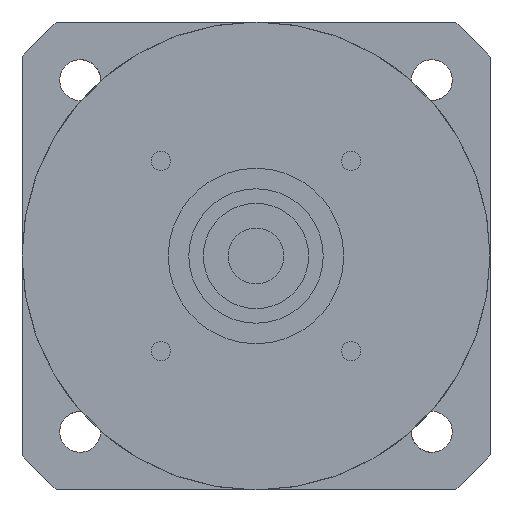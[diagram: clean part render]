
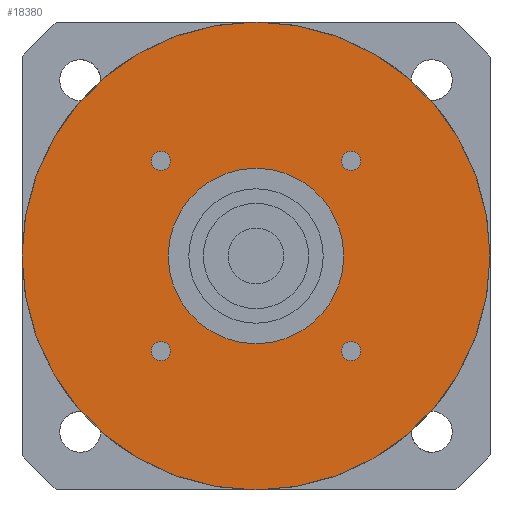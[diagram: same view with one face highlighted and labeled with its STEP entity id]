
A CAD part, left-side view. The second image highlights one B-rep face of the part: STEP entity #18380.
In plain terms, the highlighted planar face has unit normal (-1, 0, 0) as drawn and (0, 0, -1) by its records, which use the part's own axes.
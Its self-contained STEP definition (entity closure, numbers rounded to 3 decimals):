
#14100=CARTESIAN_POINT('',(-17.913,-16.263,-42.));
#14110=VERTEX_POINT('',#14100);
#14160=CARTESIAN_POINT('',(-16.263,-16.263,-42.));
#14170=DIRECTION('',(0.,0.,-1.));
#14180=DIRECTION('',(1.,0.,0.));
#14190=AXIS2_PLACEMENT_3D('',#14160,#14170,#14180);
#14200=CIRCLE('',#14190,1.65);
#14210=CARTESIAN_POINT('',(-14.613,-16.263,-42.));
#14220=VERTEX_POINT('',#14210);
#14230=EDGE_CURVE('',#14220,#14110,#14200,.T.);
#17400=CARTESIAN_POINT('',(-40.,0.,-42.));
#17410=VERTEX_POINT('',#17400);
#17490=CARTESIAN_POINT('',(40.,0.,-42.));
#17500=VERTEX_POINT('',#17490);
#17530=CARTESIAN_POINT('',(0.,0.,
-42.));
#17540=DIRECTION('',(0.,0.,1.));
#17550=DIRECTION('',(1.,0.,0.));
#17560=AXIS2_PLACEMENT_3D('',#17530,#17540,#17550);
#17570=CIRCLE('',#17560,40.);
#17580=EDGE_CURVE('',#17410,#17500,#17570,.T.);
#17630=CARTESIAN_POINT('',(0.,0.,
-42.));
#17640=DIRECTION('',(0.,0.,-1.));
#17650=DIRECTION('',(1.,0.,0.));
#17660=AXIS2_PLACEMENT_3D('',#17630,#17640,#17650);
#17670=PLANE('',#17660);
#17680=CARTESIAN_POINT('',(-16.263,16.263,-42.));
#17690=DIRECTION('',(0.,0.,-1.));
#17700=DIRECTION('',(1.,0.,0.));
#17710=AXIS2_PLACEMENT_3D('',#17680,#17690,#17700);
#17720=CIRCLE('',#17710,1.65);
#17730=CARTESIAN_POINT('',(-14.613,16.263,-42.));
#17740=VERTEX_POINT('',#17730);
#17750=CARTESIAN_POINT('',(-17.913,16.263,-42.));
#17760=VERTEX_POINT('',#17750);
#17770=EDGE_CURVE('',#17740,#17760,#17720,.T.);
#17780=ORIENTED_EDGE('',*,*,#17770,.F.);
#17790=EDGE_CURVE('',#17760,#17740,#17720,.T.);
#17800=ORIENTED_EDGE('',*,*,#17790,.F.);
#17810=EDGE_LOOP('',(#17800,#17780));
#17820=FACE_BOUND('',#17810,.T.);
#17830=CARTESIAN_POINT('',(0.,0.,
-42.));
#17840=DIRECTION('',(0.,0.,1.));
#17850=DIRECTION('',(1.,0.,0.));
#17860=AXIS2_PLACEMENT_3D('',#17830,#17840,#17850);
#17870=CIRCLE('',#17860,15.);
#17880=CARTESIAN_POINT('',(15.,0.,-42.));
#17890=VERTEX_POINT('',#17880);
#17900=CARTESIAN_POINT('',(-15.,0.,-42.));
#17910=VERTEX_POINT('',#17900);
#17920=EDGE_CURVE('',#17890,#17910,#17870,.T.);
#17930=ORIENTED_EDGE('',*,*,#17920,.T.);
#17940=EDGE_CURVE('',#17910,#17890,#17870,.T.);
#17950=ORIENTED_EDGE('',*,*,#17940,.T.);
#17960=EDGE_LOOP('',(#17950,#17930));
#17970=FACE_BOUND('',#17960,.T.);
#17980=CARTESIAN_POINT('',(16.263,16.263,-42.));
#17990=DIRECTION('',(0.,0.,-1.));
#18000=DIRECTION('',(1.,0.,0.));
#18010=AXIS2_PLACEMENT_3D('',#17980,#17990,#18000);
#18020=CIRCLE('',#18010,1.65);
#18030=CARTESIAN_POINT('',(17.913,16.263,-42.));
#18040=VERTEX_POINT('',#18030);
#18050=CARTESIAN_POINT('',(14.613,16.263,-42.));
#18060=VERTEX_POINT('',#18050);
#18070=EDGE_CURVE('',#18040,#18060,#18020,.T.);
#18080=ORIENTED_EDGE('',*,*,#18070,.F.);
#18090=EDGE_CURVE('',#18060,#18040,#18020,.T.);
#18100=ORIENTED_EDGE('',*,*,#18090,.F.);
#18110=EDGE_LOOP('',(#18100,#18080));
#18120=FACE_BOUND('',#18110,.T.);
#18130=CARTESIAN_POINT('',(16.263,-16.263,-42.));
#18140=DIRECTION('',(0.,0.,-1.));
#18150=DIRECTION('',(1.,0.,0.));
#18160=AXIS2_PLACEMENT_3D('',#18130,#18140,#18150);
#18170=CIRCLE('',#18160,1.65);
#18180=CARTESIAN_POINT('',(17.913,-16.263,-42.));
#18190=VERTEX_POINT('',#18180);
#18200=CARTESIAN_POINT('',(14.613,-16.263,-42.));
#18210=VERTEX_POINT('',#18200);
#18220=EDGE_CURVE('',#18190,#18210,#18170,.T.);
#18230=ORIENTED_EDGE('',*,*,#18220,.F.);
#18240=EDGE_CURVE('',#18210,#18190,#18170,.T.);
#18250=ORIENTED_EDGE('',*,*,#18240,.F.);
#18260=EDGE_LOOP('',(#18250,#18230));
#18270=FACE_BOUND('',#18260,.T.);
#18280=ORIENTED_EDGE('',*,*,#14230,.F.);
#18290=EDGE_CURVE('',#14110,#14220,#14200,.T.);
#18300=ORIENTED_EDGE('',*,*,#18290,.F.);
#18310=EDGE_LOOP('',(#18300,#18280));
#18320=FACE_BOUND('',#18310,.T.);
#18330=EDGE_CURVE('',#17500,#17410,#17570,.T.);
#18340=ORIENTED_EDGE('',*,*,#18330,.F.);
#18350=ORIENTED_EDGE('',*,*,#17580,.F.);
#18360=EDGE_LOOP('',(#18350,#18340));
#18370=FACE_OUTER_BOUND('',#18360,.T.);
#18380=ADVANCED_FACE('',(#17820,#17970,#18120,#18270,#18320,#18370),
#17670,.T.);
